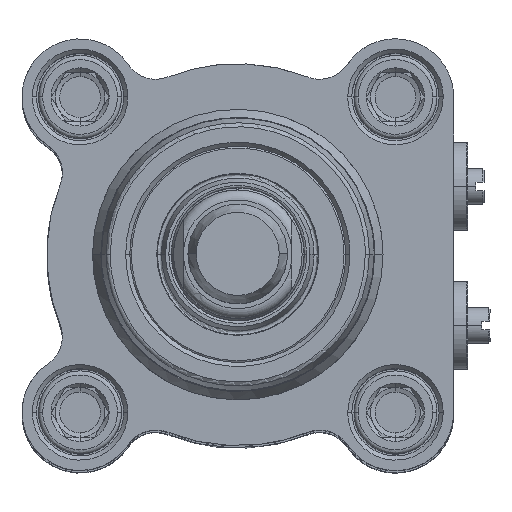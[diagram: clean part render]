
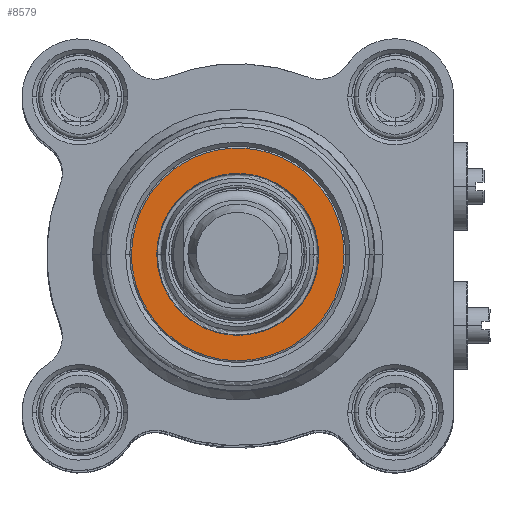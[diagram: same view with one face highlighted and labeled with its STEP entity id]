
A CAD part, top view. The second image highlights one B-rep face of the part: STEP entity #8579.
In plain terms, the highlighted planar face has unit normal (0, 0, 1).
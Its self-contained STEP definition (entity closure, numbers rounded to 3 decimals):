
#5 = CARTESIAN_POINT ( 'NONE',  ( -12.8, 0., 113.8 ) ) ;
#101 = CARTESIAN_POINT ( 'NONE',  ( 11.184, 6.446, 113.8 ) ) ;
#143 = CARTESIAN_POINT ( 'NONE',  ( -7.866, -10.236, 113.8 ) ) ;
#593 = CARTESIAN_POINT ( 'NONE',  ( 10.236, -7.866, 113.8 ) ) ;
#1138 = CARTESIAN_POINT ( 'NONE',  ( -9.75, 0., 113.8 ) ) ;
#1394 = ORIENTED_EDGE ( 'NONE', *, *, #11892, .F. ) ;
#1561 = CARTESIAN_POINT ( 'NONE',  ( 0., -12.8, 113.8 ) ) ;
#2061 = CARTESIAN_POINT ( 'NONE',  ( -3.35, 12.467, 113.8 ) ) ;
#2125 = B_SPLINE_CURVE_WITH_KNOTS ( 'NONE', 3,
 ( #1138, #28361, #10302, #5495, #5652, #17343, #7753, #12256, #21259, #14649, #12414, #5794, #12696, #19013, #21564, #26522, #28212, #2970 ),
 .UNSPECIFIED., .F., .F.,
 ( 4, 2, 2, 2, 2, 2, 2, 2, 4 ),
 ( 0., 0.062, 0.125, 0.188, 0.25, 0.313, 0.375, 0.438, 0.5 ),
 .UNSPECIFIED. ) ;
#2267 = EDGE_CURVE ( 'NONE', #15687, #21498, #22632, .T. ) ;
#2370 = CARTESIAN_POINT ( 'NONE',  ( 7.866, 10.236, 113.8 ) ) ;
#2411 = CARTESIAN_POINT ( 'NONE',  ( 1.676, -12.8, 113.8 ) ) ;
#2429 = CARTESIAN_POINT ( 'NONE',  ( -7.797, 5.992, 113.8 ) ) ;
#2729 = CARTESIAN_POINT ( 'NONE',  ( -4.91, 8.519, 113.8 ) ) ;
#2970 = CARTESIAN_POINT ( 'NONE',  ( 9.75, 0., 113.8 ) ) ;
#3046 = EDGE_LOOP ( 'NONE', ( #1394, #6975 ) ) ;
#3129 = CARTESIAN_POINT ( 'NONE',  ( -9.75, 0., 113.8 ) ) ;
#3520 = PLANE ( 'NONE',  #17070 ) ;
#4459 = CARTESIAN_POINT ( 'NONE',  ( -12.8, 1.676, 113.8 ) ) ;
#4603 = CARTESIAN_POINT ( 'NONE',  ( 1.676, 12.8, 113.8 ) ) ;
#4960 = CARTESIAN_POINT ( 'NONE',  ( 4.91, 8.519, 113.8 ) ) ;
#5495 = CARTESIAN_POINT ( 'NONE',  ( -8.519, -4.91, 113.8 ) ) ;
#5652 = CARTESIAN_POINT ( 'NONE',  ( -7.797, -5.992, 113.8 ) ) ;
#5794 = CARTESIAN_POINT ( 'NONE',  ( 4.91, -8.519, 113.8 ) ) ;
#6891 = CARTESIAN_POINT ( 'NONE',  ( -10.236, -7.866, 113.8 ) ) ;
#6975 = ORIENTED_EDGE ( 'NONE', *, *, #2267, .F. ) ;
#7042 = CARTESIAN_POINT ( 'NONE',  ( 12.8, 0., 113.8 ) ) ;
#7199 = CARTESIAN_POINT ( 'NONE',  ( -12.467, -3.35, 113.8 ) ) ;
#7753 = CARTESIAN_POINT ( 'NONE',  ( -4.91, -8.519, 113.8 ) ) ;
#8579 = ADVANCED_FACE ( 'NONE', ( #23949, #26357 ), #3520, .F. ) ;
#8884 = CARTESIAN_POINT ( 'NONE',  ( 9.496, 2.552, 113.8 ) ) ;
#9262 = CARTESIAN_POINT ( 'NONE',  ( 12.8, 1.676, 113.8 ) ) ;
#9465 = CARTESIAN_POINT ( 'NONE',  ( -6.446, -11.184, 113.8 ) ) ;
#9619 = CARTESIAN_POINT ( 'NONE',  ( 12.8, -1.676, 113.8 ) ) ;
#9638 = CARTESIAN_POINT ( 'NONE',  ( 7.797, 5.992, 113.8 ) ) ;
#9933 = ORIENTED_EDGE ( 'NONE', *, *, #28700, .F. ) ;
#10302 = CARTESIAN_POINT ( 'NONE',  ( -9.496, -2.552, 113.8 ) ) ;
#11002 = CARTESIAN_POINT ( 'NONE',  ( -12.8, 0., 113.8 ) ) ;
#11217 = CARTESIAN_POINT ( 'NONE',  ( 6.446, 11.184, 113.8 ) ) ;
#11374 = CARTESIAN_POINT ( 'NONE',  ( -12.467, 3.35, 113.8 ) ) ;
#11527 = B_SPLINE_CURVE_WITH_KNOTS ( 'NONE', 3,
 ( #7042, #9619, #13955, #20557, #593, #23423, #25382, #20840, #2411, #27946, #25676, #9465, #143, #6891, #14097, #7199, #16641, #5 ),
 .UNSPECIFIED., .F., .F.,
 ( 4, 2, 2, 2, 2, 2, 2, 2, 4 ),
 ( 0.5, 0.563, 0.625, 0.687, 0.75, 0.813, 0.875, 0.938, 1. ),
 .UNSPECIFIED. ) ;
#11583 = CARTESIAN_POINT ( 'NONE',  ( -9.496, 2.552, 113.8 ) ) ;
#11880 = CARTESIAN_POINT ( 'NONE',  ( -8.519, 4.91, 113.8 ) ) ;
#11892 = EDGE_CURVE ( 'NONE', #21498, #15687, #2125, .T. ) ;
#12256 = CARTESIAN_POINT ( 'NONE',  ( -2.552, -9.496, 113.8 ) ) ;
#12409 = CARTESIAN_POINT ( 'NONE',  ( 12.8, 0., 113.8 ) ) ;
#12414 = CARTESIAN_POINT ( 'NONE',  ( 2.552, -9.496, 113.8 ) ) ;
#12696 = CARTESIAN_POINT ( 'NONE',  ( 5.992, -7.797, 113.8 ) ) ;
#13465 = CARTESIAN_POINT ( 'NONE',  ( -1.676, 12.8, 113.8 ) ) ;
#13611 = CARTESIAN_POINT ( 'NONE',  ( -10.236, 7.866, 113.8 ) ) ;
#13763 = CARTESIAN_POINT ( 'NONE',  ( 3.35, 12.467, 113.8 ) ) ;
#13833 = CARTESIAN_POINT ( 'NONE',  ( 2.552, 9.496, 113.8 ) ) ;
#13955 = CARTESIAN_POINT ( 'NONE',  ( 12.467, -3.35, 113.8 ) ) ;
#13971 = CARTESIAN_POINT ( 'NONE',  ( -9.75, 0., 113.8 ) ) ;
#14097 = CARTESIAN_POINT ( 'NONE',  ( -11.184, -6.446, 113.8 ) ) ;
#14116 = CARTESIAN_POINT ( 'NONE',  ( 5.992, 7.797, 113.8 ) ) ;
#14272 = CARTESIAN_POINT ( 'NONE',  ( 8.519, 4.91, 113.8 ) ) ;
#14649 = CARTESIAN_POINT ( 'NONE',  ( 1.276, -9.75, 113.8 ) ) ;
#15687 = VERTEX_POINT ( 'NONE', #24401 ) ;
#15760 = B_SPLINE_CURVE_WITH_KNOTS ( 'NONE', 3,
 ( #27597, #4459, #11374, #26995, #13611, #16002, #29719, #2061, #13465, #4603, #13763, #11217, #2370, #20657, #101, #22484, #9262, #18409 ),
 .UNSPECIFIED., .F., .F.,
 ( 4, 2, 2, 2, 2, 2, 2, 2, 4 ),
 ( 0., 0.063, 0.125, 0.188, 0.25, 0.313, 0.375, 0.438, 0.5 ),
 .UNSPECIFIED. ) ;
#16002 = CARTESIAN_POINT ( 'NONE',  ( -7.866, 10.236, 113.8 ) ) ;
#16049 = VERTEX_POINT ( 'NONE', #11002 ) ;
#16275 = EDGE_LOOP ( 'NONE', ( #9933, #29460 ) ) ;
#16367 = CARTESIAN_POINT ( 'NONE',  ( 1.276, 9.75, 113.8 ) ) ;
#16641 = CARTESIAN_POINT ( 'NONE',  ( -12.8, -1.676, 113.8 ) ) ;
#17070 = AXIS2_PLACEMENT_3D ( 'NONE', #1561, #17780, #22439 ) ;
#17343 = CARTESIAN_POINT ( 'NONE',  ( -5.992, -7.797, 113.8 ) ) ;
#17780 = DIRECTION ( 'NONE',  ( 0., 0., -1. ) ) ;
#18409 = CARTESIAN_POINT ( 'NONE',  ( 12.8, 0., 113.8 ) ) ;
#19013 = CARTESIAN_POINT ( 'NONE',  ( 7.797, -5.992, 113.8 ) ) ;
#20271 = CARTESIAN_POINT ( 'NONE',  ( 9.75, 0., 113.8 ) ) ;
#20557 = CARTESIAN_POINT ( 'NONE',  ( 11.184, -6.446, 113.8 ) ) ;
#20657 = CARTESIAN_POINT ( 'NONE',  ( 10.236, 7.866, 113.8 ) ) ;
#20840 = CARTESIAN_POINT ( 'NONE',  ( 3.35, -12.467, 113.8 ) ) ;
#21259 = CARTESIAN_POINT ( 'NONE',  ( -1.276, -9.75, 113.8 ) ) ;
#21498 = VERTEX_POINT ( 'NONE', #3129 ) ;
#21564 = CARTESIAN_POINT ( 'NONE',  ( 8.519, -4.91, 113.8 ) ) ;
#22439 = DIRECTION ( 'NONE',  ( 0., -1., 0. ) ) ;
#22484 = CARTESIAN_POINT ( 'NONE',  ( 12.467, 3.35, 113.8 ) ) ;
#22632 = B_SPLINE_CURVE_WITH_KNOTS ( 'NONE', 3,
 ( #20271, #29474, #8884, #14272, #9638, #14116, #4960, #13833, #16367, #22998, #27967, #2729, #23287, #2429, #11880, #11583, #23138, #13971 ),
 .UNSPECIFIED., .F., .F.,
 ( 4, 2, 2, 2, 2, 2, 2, 2, 4 ),
 ( 0.5, 0.563, 0.625, 0.688, 0.75, 0.813, 0.875, 0.938, 1. ),
 .UNSPECIFIED. ) ;
#22998 = CARTESIAN_POINT ( 'NONE',  ( -1.276, 9.75, 113.8 ) ) ;
#23138 = CARTESIAN_POINT ( 'NONE',  ( -9.75, 1.276, 113.8 ) ) ;
#23287 = CARTESIAN_POINT ( 'NONE',  ( -5.992, 7.797, 113.8 ) ) ;
#23423 = CARTESIAN_POINT ( 'NONE',  ( 7.866, -10.236, 113.8 ) ) ;
#23949 = FACE_OUTER_BOUND ( 'NONE', #16275, .T. ) ;
#24401 = CARTESIAN_POINT ( 'NONE',  ( 9.75, 0., 113.8 ) ) ;
#25382 = CARTESIAN_POINT ( 'NONE',  ( 6.446, -11.184, 113.8 ) ) ;
#25676 = CARTESIAN_POINT ( 'NONE',  ( -3.35, -12.467, 113.8 ) ) ;
#26357 = FACE_BOUND ( 'NONE', #3046, .T. ) ;
#26522 = CARTESIAN_POINT ( 'NONE',  ( 9.496, -2.552, 113.8 ) ) ;
#26995 = CARTESIAN_POINT ( 'NONE',  ( -11.184, 6.446, 113.8 ) ) ;
#27597 = CARTESIAN_POINT ( 'NONE',  ( -12.8, 0., 113.8 ) ) ;
#27946 = CARTESIAN_POINT ( 'NONE',  ( -1.676, -12.8, 113.8 ) ) ;
#27967 = CARTESIAN_POINT ( 'NONE',  ( -2.552, 9.496, 113.8 ) ) ;
#28015 = VERTEX_POINT ( 'NONE', #12409 ) ;
#28212 = CARTESIAN_POINT ( 'NONE',  ( 9.75, -1.276, 113.8 ) ) ;
#28361 = CARTESIAN_POINT ( 'NONE',  ( -9.75, -1.276, 113.8 ) ) ;
#28700 = EDGE_CURVE ( 'NONE', #28015, #16049, #11527, .T. ) ;
#29460 = ORIENTED_EDGE ( 'NONE', *, *, #29683, .F. ) ;
#29474 = CARTESIAN_POINT ( 'NONE',  ( 9.75, 1.276, 113.8 ) ) ;
#29683 = EDGE_CURVE ( 'NONE', #16049, #28015, #15760, .T. ) ;
#29719 = CARTESIAN_POINT ( 'NONE',  ( -6.446, 11.184, 113.8 ) ) ;
